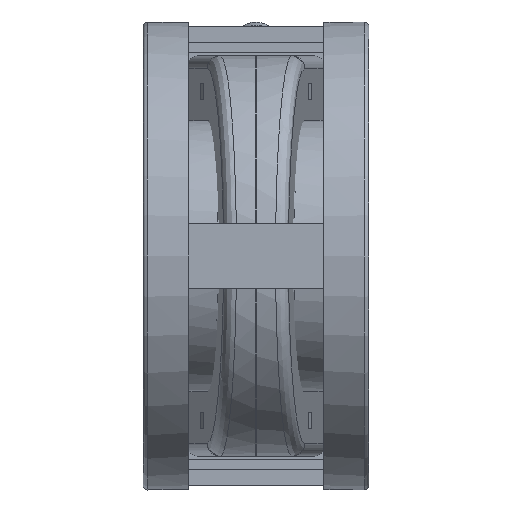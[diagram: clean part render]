
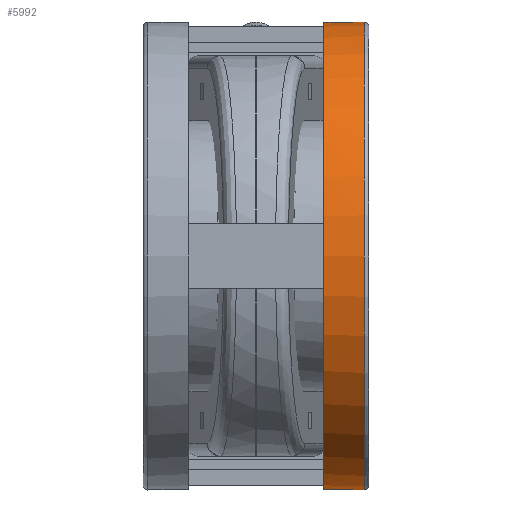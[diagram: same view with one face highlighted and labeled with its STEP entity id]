
A CAD part, front view. The second image highlights one B-rep face of the part: STEP entity #5992.
In plain terms, the highlighted cylindrical face has radius 72.5 mm (diameter 145 mm), a full revolution.
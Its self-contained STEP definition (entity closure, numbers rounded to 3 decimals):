
#3667=ELLIPSE('',#21621,72.777,72.5);
#3668=ELLIPSE('',#21623,145.,72.5);
#3669=ELLIPSE('',#21624,145.,72.5);
#3670=ELLIPSE('',#21626,145.,72.5);
#3671=ELLIPSE('',#21627,145.,72.5);
#3960=FACE_BOUND('',#8301,.T.);
#3961=FACE_BOUND('',#8302,.T.);
#3962=FACE_BOUND('',#8303,.T.);
#3963=FACE_BOUND('',#8304,.T.);
#4660=CYLINDRICAL_SURFACE('',#21629,72.5);
#5141=CIRCLE('',#21620,72.5);
#5142=CIRCLE('',#21622,72.5);
#5143=CIRCLE('',#21625,72.5);
#5144=CIRCLE('',#21628,72.5);
#5992=ADVANCED_FACE('',(#3960,#3961,#3962,#3963),#4660,.T.);
#8301=EDGE_LOOP('',(#13975,#13976));
#8302=EDGE_LOOP('',(#13977));
#8303=EDGE_LOOP('',(#13978,#13979,#13980));
#8304=EDGE_LOOP('',(#13981,#13982,#13983));
#13975=ORIENTED_EDGE('',*,*,#19390,.F.);
#13976=ORIENTED_EDGE('',*,*,#19391,.T.);
#13977=ORIENTED_EDGE('',*,*,#19392,.T.);
#13978=ORIENTED_EDGE('',*,*,#19393,.F.);
#13979=ORIENTED_EDGE('',*,*,#19394,.F.);
#13980=ORIENTED_EDGE('',*,*,#19395,.F.);
#13981=ORIENTED_EDGE('',*,*,#19396,.T.);
#13982=ORIENTED_EDGE('',*,*,#19397,.T.);
#13983=ORIENTED_EDGE('',*,*,#19398,.T.);
#17392=VERTEX_POINT('',#30359);
#17393=VERTEX_POINT('',#30360);
#17394=VERTEX_POINT('',#30363);
#17395=VERTEX_POINT('',#30365);
#17396=VERTEX_POINT('',#30366);
#17397=VERTEX_POINT('',#30368);
#17398=VERTEX_POINT('',#30371);
#17399=VERTEX_POINT('',#30372);
#17400=VERTEX_POINT('',#30374);
#19390=EDGE_CURVE('',#17392,#17393,#5141,.T.);
#19391=EDGE_CURVE('',#17392,#17393,#3667,.T.);
#19392=EDGE_CURVE('',#17394,#17394,#5142,.T.);
#19393=EDGE_CURVE('',#17395,#17396,#3668,.T.);
#19394=EDGE_CURVE('',#17397,#17395,#3669,.T.);
#19395=EDGE_CURVE('',#17396,#17397,#5143,.T.);
#19396=EDGE_CURVE('',#17398,#17399,#3670,.T.);
#19397=EDGE_CURVE('',#17399,#17400,#3671,.T.);
#19398=EDGE_CURVE('',#17400,#17398,#5144,.T.);
#21620=AXIS2_PLACEMENT_3D('',#30358,#24662,#24663);
#21621=AXIS2_PLACEMENT_3D('',#30361,#24664,#24665);
#21622=AXIS2_PLACEMENT_3D('',#30362,#24666,#24667);
#21623=AXIS2_PLACEMENT_3D('',#30364,#24668,#24669);
#21624=AXIS2_PLACEMENT_3D('',#30367,#24670,#24671);
#21625=AXIS2_PLACEMENT_3D('',#30369,#24672,#24673);
#21626=AXIS2_PLACEMENT_3D('',#30370,#24674,#24675);
#21627=AXIS2_PLACEMENT_3D('',#30373,#24676,#24677);
#21628=AXIS2_PLACEMENT_3D('',#30375,#24678,#24679);
#21629=AXIS2_PLACEMENT_3D('',#30376,#24680,#24681);
#24662=DIRECTION('',(1.,0.,0.));
#24663=DIRECTION('',(0.,1.,0.));
#24664=DIRECTION('',(-0.996,-0.087,0.));
#24665=DIRECTION('',(0.087,-0.996,0.));
#24666=DIRECTION('',(1.,0.,0.));
#24667=DIRECTION('',(0.,1.,0.));
#24668=DIRECTION('',(-0.5,0.866,0.));
#24669=DIRECTION('',(0.866,0.5,0.));
#24670=DIRECTION('',(-0.5,-0.866,0.));
#24671=DIRECTION('',(0.866,-0.5,0.));
#24672=DIRECTION('',(1.,0.,0.));
#24673=DIRECTION('',(0.,0.,1.));
#24674=DIRECTION('',(0.5,0.866,0.));
#24675=DIRECTION('',(0.866,-0.5,0.));
#24676=DIRECTION('',(0.5,-0.866,0.));
#24677=DIRECTION('',(0.866,0.5,0.));
#24678=DIRECTION('',(-1.,0.,0.));
#24679=DIRECTION('',(0.,0.,-1.));
#24680=DIRECTION('',(1.,0.,0.));
#24681=DIRECTION('',(0.,1.,0.));
#30358=CARTESIAN_POINT('',(14.,0.,0.));
#30359=CARTESIAN_POINT('',(14.,66.785,28.214));
#30360=CARTESIAN_POINT('',(14.,66.785,-28.214));
#30361=CARTESIAN_POINT('',(19.843,0.,0.));
#30362=CARTESIAN_POINT('',(1.5,0.,0.));
#30363=CARTESIAN_POINT('',(1.5,72.5,0.));
#30364=CARTESIAN_POINT('',(9.5,0.,0.));
#30365=CARTESIAN_POINT('',(9.5,0.,-72.5));
#30366=CARTESIAN_POINT('',(5.,-2.598,-72.453));
#30367=CARTESIAN_POINT('',(9.5,0.,0.));
#30368=CARTESIAN_POINT('',(5.,2.598,-72.453));
#30369=CARTESIAN_POINT('',(5.,0.,0.));
#30370=CARTESIAN_POINT('',(9.5,0.,0.));
#30371=CARTESIAN_POINT('',(5.,2.598,72.453));
#30372=CARTESIAN_POINT('',(9.5,0.,72.5));
#30373=CARTESIAN_POINT('',(9.5,0.,0.));
#30374=CARTESIAN_POINT('',(5.,-2.598,72.453));
#30375=CARTESIAN_POINT('',(5.,0.,0.));
#30376=CARTESIAN_POINT('',(21.4,0.,0.));
